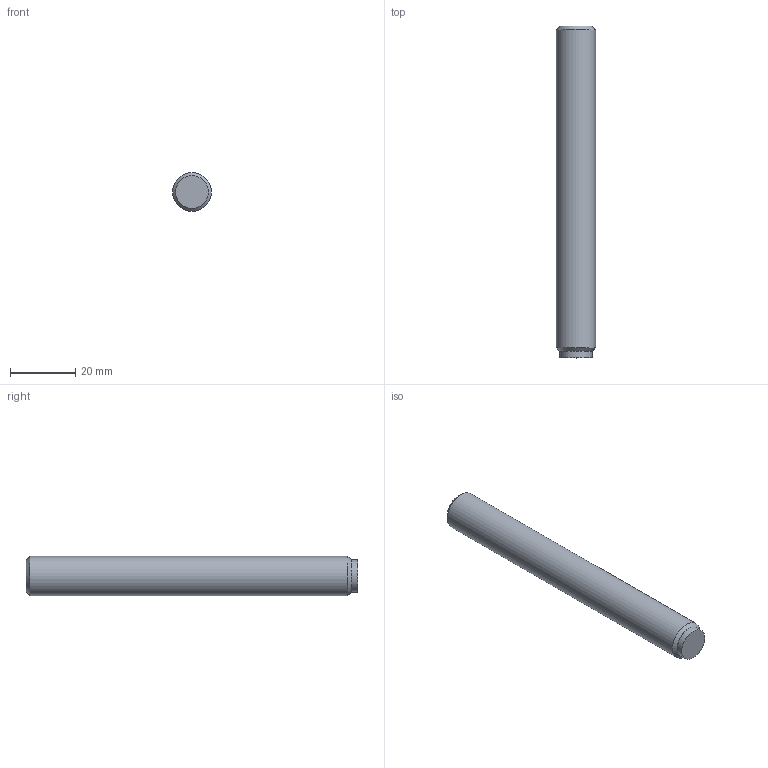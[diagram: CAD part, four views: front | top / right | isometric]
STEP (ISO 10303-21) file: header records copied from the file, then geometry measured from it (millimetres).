
FILE_DESCRIPTION( ( 'STEP AP203' ), '1' );
FILE_NAME( 'C:/Temp/Ganter_Step_05_03_2020/data/3_2/gn913_3/Grub screw GN 913.3-M12-100-MS.stp', '2020-03-13T05:35:55', ( 'License CC BY-ND 4.0' ), ( 'CADENAS' ), ' ', 'PARTsolutions', ' ' );
FILE_SCHEMA( ( 'CONFIG_CONTROL_DESIGN' ) );
Length unit declared in the file: millimetre
Products named in the file (1): _Grub screw GN 913.3-M12-100-MS
Bounding box: 12 x 102 x 12 mm (x, y, z)
Volume: 11176.5 mm3; surface area: 4179.4 mm2
Topology: 1 solids, 1 shells, 14 faces, 28 edges, 18 vertices
Faces by surface type: plane 10, cylinder 2, cone 2
Full cylindrical faces by diameter (mm): 10 x1, 12 x1
Entity records: 386 total; most frequent: DIRECTION 60, CARTESIAN_POINT 57, ORIENTED_EDGE 48, EDGE_CURVE 24, AXIS2_PLACEMENT_3D 21, EDGE_LOOP 20, VERTEX_POINT 18, LINE 18
